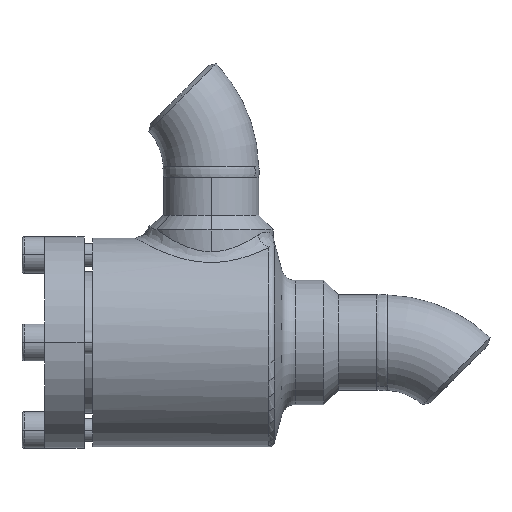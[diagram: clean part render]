
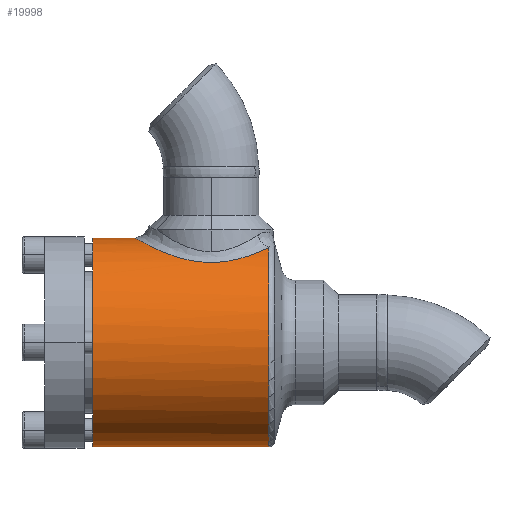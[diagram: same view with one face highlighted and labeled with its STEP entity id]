
A CAD part, left-side view. The second image highlights one B-rep face of the part: STEP entity #19998.
In plain terms, the highlighted cylindrical face has radius 37 mm (diameter 74 mm), a partial arc.
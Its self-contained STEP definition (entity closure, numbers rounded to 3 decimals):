
#16460 = LINE ( 'NONE', #16461, #16462 ) ;
#16461 = CARTESIAN_POINT ( 'NONE',  ( 0., -68., -37. ) ) ;
#16462 = VECTOR ( 'NONE', #16463, 1000. ) ;
#16463 = DIRECTION ( 'NONE',  ( 0., 1., 0. ) ) ;
#16672 = EDGE_CURVE ( 'NONE', #13189, #998, #28195, .T. ) ;
#364 = CIRCLE ( 'NONE', #365, 37. ) ;
#365 = AXIS2_PLACEMENT_3D ( 'NONE', #366, #367, #368 ) ;
#366 = CARTESIAN_POINT ( 'NONE',  ( 0., 0., 0. ) ) ;
#367 = DIRECTION ( 'NONE',  ( 0., 1., 0. ) ) ;
#368 = DIRECTION ( 'NONE',  ( 0., 0., 1. ) ) ;
#17231 = ORIENTED_EDGE ( 'NONE', *, *, #16672, .T. ) ;
#998 = VERTEX_POINT ( 'NONE', #23282 ) ;
#1403 = EDGE_CURVE ( 'NONE', #998, #9547, #23676, .T. ) ;
#19335 = VERTEX_POINT ( 'NONE', #5436 ) ;
#19773 = EDGE_LOOP ( 'NONE', ( #28738, #14186, #17231, #16040, #25057 ) ) ;
#19998 = ADVANCED_FACE ( 'NONE', ( #6792 ), #6793, .T. ) ;
#21341 = CARTESIAN_POINT ( 'NONE',  ( 0., 0., -37. ) ) ;
#5436 = CARTESIAN_POINT ( 'NONE',  ( 0., -62.446, -37. ) ) ;
#5893 = CARTESIAN_POINT ( 'NONE',  ( -15.535, -62.446, 33.581 ) ) ;
#6265 = CIRCLE ( 'NONE', #6266, 37. ) ;
#6266 = AXIS2_PLACEMENT_3D ( 'NONE', #6267, #6268, #6269 ) ;
#6267 = CARTESIAN_POINT ( 'NONE',  ( 0., -62.446, 0. ) ) ;
#6268 = DIRECTION ( 'NONE',  ( 0., 1., 0. ) ) ;
#6269 = DIRECTION ( 'NONE',  ( 0., 0., -1. ) ) ;
#6792 = FACE_OUTER_BOUND ( 'NONE', #19773, .T. ) ;
#6793 = CYLINDRICAL_SURFACE ( 'NONE', #6794, 37. ) ;
#6794 = AXIS2_PLACEMENT_3D ( 'NONE', #6795, #6796, #6797 ) ;
#6795 = CARTESIAN_POINT ( 'NONE',  ( 0., -68., 0. ) ) ;
#6796 = DIRECTION ( 'NONE',  ( 0., 1., 0. ) ) ;
#6797 = DIRECTION ( 'NONE',  ( 0., 0., 1. ) ) ;
#23282 = CARTESIAN_POINT ( 'NONE',  ( 0., -15., 37. ) ) ;
#23350 = CARTESIAN_POINT ( 'NONE',  ( 0., 0., 37. ) ) ;
#23676 = LINE ( 'NONE', #23677, #23678 ) ;
#23677 = CARTESIAN_POINT ( 'NONE',  ( 0., -68., 37. ) ) ;
#23678 = VECTOR ( 'NONE', #23679, 1000. ) ;
#23679 = DIRECTION ( 'NONE',  ( 0., 1., 0. ) ) ;
#7538 = EDGE_CURVE ( 'NONE', #19335, #11528, #16460, .T. ) ;
#24759 = EDGE_CURVE ( 'NONE', #11528, #9547, #364, .T. ) ;
#25057 = ORIENTED_EDGE ( 'NONE', *, *, #24759, .F. ) ;
#9547 = VERTEX_POINT ( 'NONE', #23350 ) ;
#11528 = VERTEX_POINT ( 'NONE', #21341 ) ;
#28195 = B_SPLINE_CURVE_WITH_KNOTS ( 'NONE', 3,
 ( #28196, #28197, #28198, #28199, #28200, #28201, #28202, #28203, #28204, #28205, #28206, #28207, #28208, #28225, #28226, #28227, #28228, #28229, #28230, #28231, #28232, #28233, #28234, #28235, #28236, #28237, #28238, #28239, #28240, #28258, #28259, #28260, #28261, #28262, #28263, #28264, #28265, #28266, #28267, #28268, #28269, #28270, #28271, #28272, #28273, #28291, #28292, #28293 ),
 .UNSPECIFIED., .F., .F.,
 ( 4, 2, 2, 2, 2, 2, 2, 2, 2, 2, 2, 2, 2, 2, 2, 2, 2, 2, 2, 2, 2, 2, 2, 4 ),
 ( 0., 0.004, 0.008, 0.01, 0.012, 0.016, 0.018, 0.02, 0.024, 0.026, 0.028, 0.03, 0.032, 0.036, 0.04, 0.042, 0.044, 0.048, 0.05, 0.052, 0.056, 0.058, 0.06, 0.064 ),
 .UNSPECIFIED. ) ;
#28196 = CARTESIAN_POINT ( 'NONE',  ( -15.535, -62.446, 33.581 ) ) ;
#28197 = CARTESIAN_POINT ( 'NONE',  ( -16.452, -61.548, 33.157 ) ) ;
#28198 = CARTESIAN_POINT ( 'NONE',  ( -17.286, -60.594, 32.725 ) ) ;
#28199 = CARTESIAN_POINT ( 'NONE',  ( -18.811, -58.577, 31.873 ) ) ;
#28200 = CARTESIAN_POINT ( 'NONE',  ( -19.502, -57.514, 31.452 ) ) ;
#28201 = CARTESIAN_POINT ( 'NONE',  ( -20.434, -55.835, 30.848 ) ) ;
#28202 = CARTESIAN_POINT ( 'NONE',  ( -20.728, -55.259, 30.65 ) ) ;
#28203 = CARTESIAN_POINT ( 'NONE',  ( -21.277, -54.088, 30.272 ) ) ;
#28204 = CARTESIAN_POINT ( 'NONE',  ( -21.531, -53.494, 30.092 ) ) ;
#28205 = CARTESIAN_POINT ( 'NONE',  ( -22.233, -51.685, 29.581 ) ) ;
#28206 = CARTESIAN_POINT ( 'NONE',  ( -22.624, -50.442, 29.28 ) ) ;
#28207 = CARTESIAN_POINT ( 'NONE',  ( -23.09, -48.518, 28.912 ) ) ;
#28208 = CARTESIAN_POINT ( 'NONE',  ( -23.225, -47.864, 28.803 ) ) ;
#28225 = CARTESIAN_POINT ( 'NONE',  ( -23.453, -46.548, 28.618 ) ) ;
#28226 = CARTESIAN_POINT ( 'NONE',  ( -23.545, -45.887, 28.542 ) ) ;
#28227 = CARTESIAN_POINT ( 'NONE',  ( -23.756, -43.897, 28.367 ) ) ;
#28228 = CARTESIAN_POINT ( 'NONE',  ( -23.81, -42.56, 28.321 ) ) ;
#28229 = CARTESIAN_POINT ( 'NONE',  ( -23.758, -40.538, 28.365 ) ) ;
#28230 = CARTESIAN_POINT ( 'NONE',  ( -23.718, -39.862, 28.398 ) ) ;
#28231 = CARTESIAN_POINT ( 'NONE',  ( -23.596, -38.528, 28.5 ) ) ;
#28232 = CARTESIAN_POINT ( 'NONE',  ( -23.513, -37.867, 28.569 ) ) ;
#28233 = CARTESIAN_POINT ( 'NONE',  ( -23.304, -36.555, 28.739 ) ) ;
#28234 = CARTESIAN_POINT ( 'NONE',  ( -23.179, -35.905, 28.84 ) ) ;
#28235 = CARTESIAN_POINT ( 'NONE',  ( -22.886, -34.615, 29.073 ) ) ;
#28236 = CARTESIAN_POINT ( 'NONE',  ( -22.718, -33.974, 29.205 ) ) ;
#28237 = CARTESIAN_POINT ( 'NONE',  ( -22.153, -32.08, 29.639 ) ) ;
#28238 = CARTESIAN_POINT ( 'NONE',  ( -21.7, -30.866, 29.975 ) ) ;
#28239 = CARTESIAN_POINT ( 'NONE',  ( -20.645, -28.526, 30.712 ) ) ;
#28240 = CARTESIAN_POINT ( 'NONE',  ( -20.043, -27.4, 31.112 ) ) ;
#28258 = CARTESIAN_POINT ( 'NONE',  ( -19.02, -25.773, 31.74 ) ) ;
#28259 = CARTESIAN_POINT ( 'NONE',  ( -18.66, -25.243, 31.953 ) ) ;
#28260 = CARTESIAN_POINT ( 'NONE',  ( -17.908, -24.217, 32.381 ) ) ;
#28261 = CARTESIAN_POINT ( 'NONE',  ( -17.515, -23.72, 32.595 ) ) ;
#28262 = CARTESIAN_POINT ( 'NONE',  ( -16.284, -22.274, 33.237 ) ) ;
#28263 = CARTESIAN_POINT ( 'NONE',  ( -15.395, -21.372, 33.662 ) ) ;
#28264 = CARTESIAN_POINT ( 'NONE',  ( -13.943, -20.115, 34.276 ) ) ;
#28265 = CARTESIAN_POINT ( 'NONE',  ( -13.437, -19.71, 34.478 ) ) ;
#28266 = CARTESIAN_POINT ( 'NONE',  ( -12.398, -18.947, 34.865 ) ) ;
#28267 = CARTESIAN_POINT ( 'NONE',  ( -11.864, -18.588, 35.051 ) ) ;
#28268 = CARTESIAN_POINT ( 'NONE',  ( -10.215, -17.575, 35.581 ) ) ;
#28269 = CARTESIAN_POINT ( 'NONE',  ( -9.054, -16.989, 35.897 ) ) ;
#28270 = CARTESIAN_POINT ( 'NONE',  ( -7.207, -16.258, 36.297 ) ) ;
#28271 = CARTESIAN_POINT ( 'NONE',  ( -6.575, -16.041, 36.417 ) ) ;
#28272 = CARTESIAN_POINT ( 'NONE',  ( -5.29, -15.666, 36.626 ) ) ;
#28273 = CARTESIAN_POINT ( 'NONE',  ( -4.64, -15.508, 36.714 ) ) ;
#28291 = CARTESIAN_POINT ( 'NONE',  ( -2.677, -15.129, 36.926 ) ) ;
#28292 = CARTESIAN_POINT ( 'NONE',  ( -1.349, -15., 37. ) ) ;
#28293 = CARTESIAN_POINT ( 'NONE',  ( 0., -15., 37. ) ) ;
#28738 = ORIENTED_EDGE ( 'NONE', *, *, #7538, .F. ) ;
#13189 = VERTEX_POINT ( 'NONE', #5893 ) ;
#13585 = EDGE_CURVE ( 'NONE', #19335, #13189, #6265, .T. ) ;
#14186 = ORIENTED_EDGE ( 'NONE', *, *, #13585, .T. ) ;
#16040 = ORIENTED_EDGE ( 'NONE', *, *, #1403, .T. ) ;
